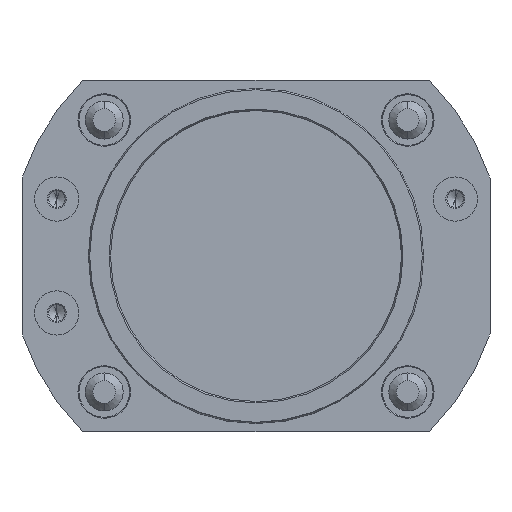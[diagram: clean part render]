
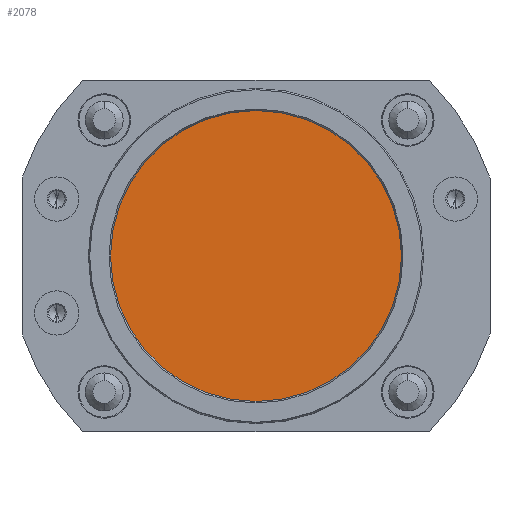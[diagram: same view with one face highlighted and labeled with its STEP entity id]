
A CAD part, front view. The second image highlights one B-rep face of the part: STEP entity #2078.
In plain terms, the highlighted planar face has unit normal (0, -1, 0).
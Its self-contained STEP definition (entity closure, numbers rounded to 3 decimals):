
#2048 = EDGE_LOOP ( 'NONE', ( #2051, #2070 ) ) ;
#2051 = ORIENTED_EDGE ( 'NONE', *, *, #2073, .F. ) ;
#2070 = ORIENTED_EDGE ( 'NONE', *, *, #10177, .F. ) ;
#2073 = EDGE_CURVE ( 'NONE', #10175, #10151, #3235, .T. ) ;
#2078 = ADVANCED_FACE ( 'NONE', ( #3260 ), #3258, .T. ) ;
#3213 = AXIS2_PLACEMENT_3D ( 'NONE', #3261, #3256, #3255 ) ;
#3215 = CARTESIAN_POINT ( 'NONE',  ( 0., 3., 0. ) ) ;
#3235 = CIRCLE ( 'NONE', #3213, 23. ) ;
#3252 = DIRECTION ( 'NONE',  ( 0., 0., -1. ) ) ;
#3254 = DIRECTION ( 'NONE',  ( 0., -1., 0. ) ) ;
#3255 = DIRECTION ( 'NONE',  ( 0., 0., 1. ) ) ;
#3256 = DIRECTION ( 'NONE',  ( 0., 1., 0. ) ) ;
#3258 = PLANE ( 'NONE',  #3265 ) ;
#3260 = FACE_OUTER_BOUND ( 'NONE', #2048, .T. ) ;
#3261 = CARTESIAN_POINT ( 'NONE',  ( 0., 3., 0. ) ) ;
#3265 = AXIS2_PLACEMENT_3D ( 'NONE', #3215, #3254, #3252 ) ;
#8253 = CARTESIAN_POINT ( 'NONE',  ( 0., 3., -23. ) ) ;
#8277 = CARTESIAN_POINT ( 'NONE',  ( 0., 3., 23. ) ) ;
#8323 = DIRECTION ( 'NONE',  ( 0., 0., 1. ) ) ;
#8324 = DIRECTION ( 'NONE',  ( 0., 1., 0. ) ) ;
#8325 = CARTESIAN_POINT ( 'NONE',  ( 0., 3., 0. ) ) ;
#8326 = AXIS2_PLACEMENT_3D ( 'NONE', #8325, #8324, #8323 ) ;
#8327 = CIRCLE ( 'NONE', #8326, 23. ) ;
#10151 = VERTEX_POINT ( 'NONE', #8253 ) ;
#10175 = VERTEX_POINT ( 'NONE', #8277 ) ;
#10177 = EDGE_CURVE ( 'NONE', #10151, #10175, #8327, .T. ) ;
